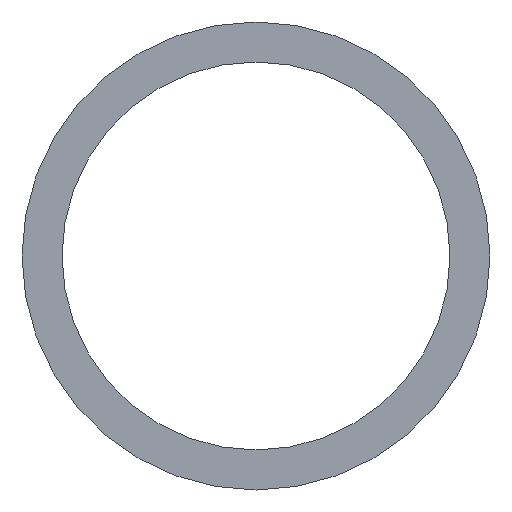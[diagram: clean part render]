
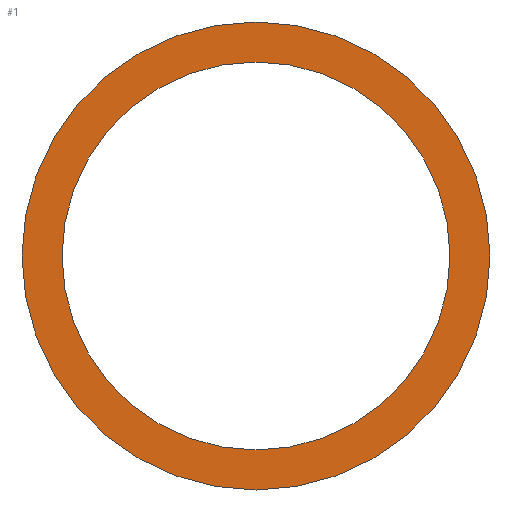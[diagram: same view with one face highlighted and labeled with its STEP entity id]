
A CAD part, front view. The second image highlights one B-rep face of the part: STEP entity #1.
In plain terms, the highlighted planar face has unit normal (0, -1, 0).
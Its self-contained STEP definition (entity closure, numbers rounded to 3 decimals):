
#1 = ADVANCED_FACE ( 'NONE', ( #32, #141 ), #60, .T. ) ;
#5 = VERTEX_POINT ( 'NONE', #191 ) ;
#19 = CARTESIAN_POINT ( 'NONE',  ( 11020., 1148., 3009.3 ) ) ;
#22 = EDGE_LOOP ( 'NONE', ( #151, #113 ) ) ;
#27 = DIRECTION ( 'NONE',  ( 0., 0., -1. ) ) ;
#29 = CARTESIAN_POINT ( 'NONE',  ( 11020., 1148., 2995.85 ) ) ;
#31 = CIRCLE ( 'NONE', #199, 11.15 ) ;
#32 = FACE_BOUND ( 'NONE', #22, .T. ) ;
#39 = CIRCLE ( 'NONE', #128, 13.45 ) ;
#43 = EDGE_CURVE ( 'NONE', #80, #174, #39, .T. ) ;
#45 = DIRECTION ( 'NONE',  ( 0., 0., -1. ) ) ;
#55 = CARTESIAN_POINT ( 'NONE',  ( 11020., 1148., 2982.4 ) ) ;
#56 = DIRECTION ( 'NONE',  ( 0., 0., -1. ) ) ;
#59 = EDGE_CURVE ( 'NONE', #115, #5, #31, .T. ) ;
#60 = PLANE ( 'NONE',  #173 ) ;
#62 = ORIENTED_EDGE ( 'NONE', *, *, #139, .T. ) ;
#65 = CIRCLE ( 'NONE', #94, 11.15 ) ;
#69 = CARTESIAN_POINT ( 'NONE',  ( 11020., 1148., 2995.85 ) ) ;
#79 = CARTESIAN_POINT ( 'NONE',  ( 11020., 1148., 2995.85 ) ) ;
#80 = VERTEX_POINT ( 'NONE', #19 ) ;
#84 = EDGE_LOOP ( 'NONE', ( #120, #62 ) ) ;
#86 = CARTESIAN_POINT ( 'NONE',  ( 11020., 1148., 3007. ) ) ;
#87 = CIRCLE ( 'NONE', #132, 13.45 ) ;
#94 = AXIS2_PLACEMENT_3D ( 'NONE', #69, #208, #198 ) ;
#113 = ORIENTED_EDGE ( 'NONE', *, *, #125, .F. ) ;
#115 = VERTEX_POINT ( 'NONE', #86 ) ;
#116 = CARTESIAN_POINT ( 'NONE',  ( 11020., 1148., 3495.85 ) ) ;
#120 = ORIENTED_EDGE ( 'NONE', *, *, #43, .T. ) ;
#121 = DIRECTION ( 'NONE',  ( 0., -1., 0. ) ) ;
#125 = EDGE_CURVE ( 'NONE', #5, #115, #65, .T. ) ;
#128 = AXIS2_PLACEMENT_3D ( 'NONE', #29, #179, #27 ) ;
#132 = AXIS2_PLACEMENT_3D ( 'NONE', #147, #121, #56 ) ;
#139 = EDGE_CURVE ( 'NONE', #174, #80, #87, .T. ) ;
#141 = FACE_OUTER_BOUND ( 'NONE', #84, .T. ) ;
#143 = DIRECTION ( 'NONE',  ( 0., -1., 0. ) ) ;
#147 = CARTESIAN_POINT ( 'NONE',  ( 11020., 1148., 2995.85 ) ) ;
#151 = ORIENTED_EDGE ( 'NONE', *, *, #59, .F. ) ;
#162 = DIRECTION ( 'NONE',  ( 0., -1., 0. ) ) ;
#173 = AXIS2_PLACEMENT_3D ( 'NONE', #116, #143, #45 ) ;
#174 = VERTEX_POINT ( 'NONE', #55 ) ;
#179 = DIRECTION ( 'NONE',  ( 0., -1., 0. ) ) ;
#185 = DIRECTION ( 'NONE',  ( 0., 0., -1. ) ) ;
#191 = CARTESIAN_POINT ( 'NONE',  ( 11020., 1148., 2984.7 ) ) ;
#198 = DIRECTION ( 'NONE',  ( 0., 0., -1. ) ) ;
#199 = AXIS2_PLACEMENT_3D ( 'NONE', #79, #162, #185 ) ;
#208 = DIRECTION ( 'NONE',  ( 0., -1., 0. ) ) ;
